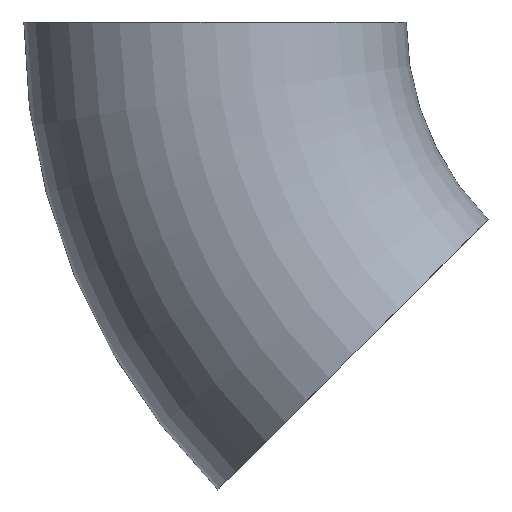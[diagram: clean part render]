
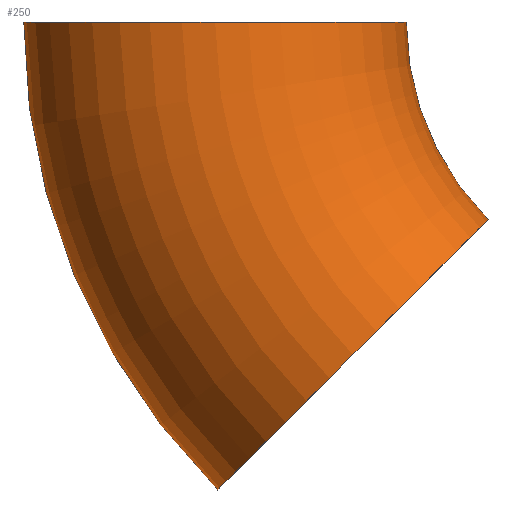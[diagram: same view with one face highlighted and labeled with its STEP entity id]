
A CAD part, front view. The second image highlights one B-rep face of the part: STEP entity #250.
In plain terms, the highlighted toroidal (fillet/blend) face has major radius 500 mm and minor radius 203.2 mm.
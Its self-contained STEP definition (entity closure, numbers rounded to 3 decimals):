
#7 = ORIENTED_EDGE ( 'NONE', *, *, #234, .T. ) ;
#9 = DIRECTION ( 'NONE',  ( 0., 0., 1. ) ) ;
#15 = DIRECTION ( 'NONE',  ( 0., 1., 0. ) ) ;
#30 = DIRECTION ( 'NONE',  ( 0., 0., 1. ) ) ;
#32 = FACE_OUTER_BOUND ( 'NONE', #137, .T. ) ;
#35 = AXIS2_PLACEMENT_3D ( 'NONE', #50, #127, #30 ) ;
#49 = CARTESIAN_POINT ( 'NONE',  ( -497.237, 0., -497.237 ) ) ;
#50 = CARTESIAN_POINT ( 'NONE',  ( 0., 0., 0. ) ) ;
#54 = CIRCLE ( 'NONE', #205, 203.2 ) ;
#55 = CIRCLE ( 'NONE', #143, 296.8 ) ;
#59 = EDGE_CURVE ( 'NONE', #123, #158, #54, .T. ) ;
#62 = AXIS2_PLACEMENT_3D ( 'NONE', #90, #15, #164 ) ;
#66 = VERTEX_POINT ( 'NONE', #145 ) ;
#72 = CARTESIAN_POINT ( 'NONE',  ( 0., 0., 0. ) ) ;
#82 = EDGE_CURVE ( 'NONE', #120, #123, #217, .T. ) ;
#89 = CIRCLE ( 'NONE', #229, 203.2 ) ;
#90 = CARTESIAN_POINT ( 'NONE',  ( 0., 0., 0. ) ) ;
#92 = TOROIDAL_SURFACE ( 'NONE', #35, 500., 203.2 ) ;
#120 = VERTEX_POINT ( 'NONE', #49 ) ;
#123 = VERTEX_POINT ( 'NONE', #246 ) ;
#127 = DIRECTION ( 'NONE',  ( 0., 1., 0. ) ) ;
#137 = EDGE_LOOP ( 'NONE', ( #142, #243, #7, #216 ) ) ;
#142 = ORIENTED_EDGE ( 'NONE', *, *, #82, .F. ) ;
#143 = AXIS2_PLACEMENT_3D ( 'NONE', #72, #150, #188 ) ;
#145 = CARTESIAN_POINT ( 'NONE',  ( -209.869, 0., -209.869 ) ) ;
#148 = DIRECTION ( 'NONE',  ( 0.707, 0., 0.707 ) ) ;
#150 = DIRECTION ( 'NONE',  ( 0., 1., 0. ) ) ;
#158 = VERTEX_POINT ( 'NONE', #183 ) ;
#163 = DIRECTION ( 'NONE',  ( 1., 0., 0. ) ) ;
#164 = DIRECTION ( 'NONE',  ( 0., 0., 1. ) ) ;
#167 = CARTESIAN_POINT ( 'NONE',  ( -353.553, 0., -353.553 ) ) ;
#182 = CARTESIAN_POINT ( 'NONE',  ( -500., 0., 0. ) ) ;
#183 = CARTESIAN_POINT ( 'NONE',  ( -296.8, 0., 0. ) ) ;
#188 = DIRECTION ( 'NONE',  ( 0., 0., 1. ) ) ;
#189 = EDGE_CURVE ( 'NONE', #120, #66, #89, .T. ) ;
#205 = AXIS2_PLACEMENT_3D ( 'NONE', #182, #9, #163 ) ;
#207 = DIRECTION ( 'NONE',  ( -0.707, 0., 0.707 ) ) ;
#216 = ORIENTED_EDGE ( 'NONE', *, *, #59, .F. ) ;
#217 = CIRCLE ( 'NONE', #62, 703.2 ) ;
#229 = AXIS2_PLACEMENT_3D ( 'NONE', #167, #207, #148 ) ;
#234 = EDGE_CURVE ( 'NONE', #66, #158, #55, .T. ) ;
#243 = ORIENTED_EDGE ( 'NONE', *, *, #189, .T. ) ;
#246 = CARTESIAN_POINT ( 'NONE',  ( -703.2, 0., 0. ) ) ;
#250 = ADVANCED_FACE ( 'NONE', ( #32 ), #92, .T. ) ;
